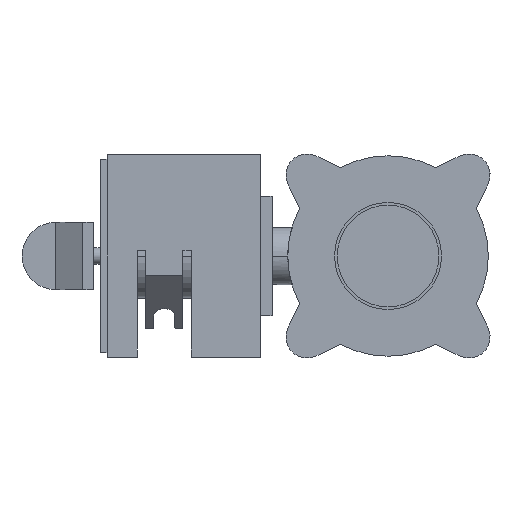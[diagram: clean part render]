
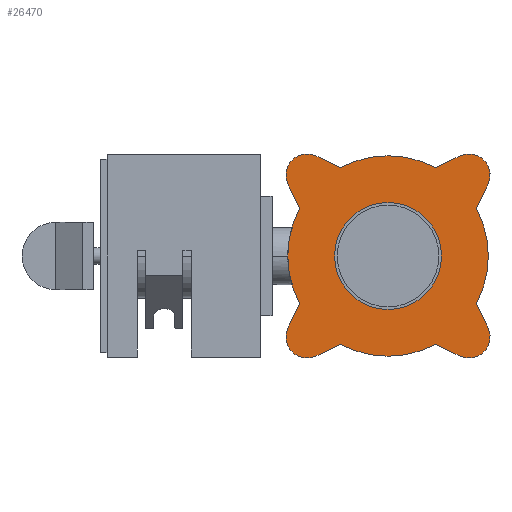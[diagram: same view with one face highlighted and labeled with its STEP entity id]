
A CAD part, left-side view. The second image highlights one B-rep face of the part: STEP entity #26470.
In plain terms, the highlighted planar face has unit normal (-1, 0, 0).
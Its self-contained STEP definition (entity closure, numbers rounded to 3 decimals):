
#18180=CARTESIAN_POINT('',(-64.5,-60.794,27.989));
#18190=VERTEX_POINT('',#18180);
#18220=CARTESIAN_POINT('',(-64.5,-113.3,0.));
#18230=DIRECTION('',(-1.,0.,0.));
#18240=DIRECTION('',(0.,-0.707,
0.707));
#18250=AXIS2_PLACEMENT_3D('',#18220,#18230,#18240);
#18260=CIRCLE('',#18250,59.5);
#18270=CARTESIAN_POINT('',(-64.5,-60.794,-27.989));
#18280=VERTEX_POINT('',#18270);
#18290=EDGE_CURVE('',#18190,#18280,#18260,.T.);
#22980=CARTESIAN_POINT('',(-64.5,-165.806,
-27.989));
#22990=VERTEX_POINT('',#22980);
#23020=CARTESIAN_POINT('',(-64.5,-113.3,0.));
#23030=DIRECTION('',(-1.,0.,0.));
#23040=DIRECTION('',(0.,-0.707,
0.707));
#23050=AXIS2_PLACEMENT_3D('',#23020,#23030,#23040);
#23060=CIRCLE('',#23050,59.5);
#23070=CARTESIAN_POINT('',(-64.5,-165.806,
27.989));
#23080=VERTEX_POINT('',#23070);
#23090=EDGE_CURVE('',#22990,#23080,#23060,.T.);
#23300=CARTESIAN_POINT('',(-64.5,-172.712,
-42.801));
#23310=VERTEX_POINT('',#23300);
#23340=CARTESIAN_POINT('',(-64.5,-152.754,0.));
#23350=DIRECTION('',(0.,0.423,
0.906));
#23360=VECTOR('',#23350,1.);
#23370=LINE('',#23340,#23360);
#23380=EDGE_CURVE('',#23310,#22990,#23370,.T.);
#23440=CARTESIAN_POINT('',(-64.5,-113.3,0.));
#23450=DIRECTION('',(-1.,0.,0.));
#23460=DIRECTION('',(0.,-0.707,
0.707));
#23470=AXIS2_PLACEMENT_3D('',#23440,#23450,#23460);
#23480=CIRCLE('',#23470,59.5);
#23490=CARTESIAN_POINT('',(-64.5,-85.311,-52.506));
#23500=VERTEX_POINT('',#23490);
#23510=CARTESIAN_POINT('',(-64.5,-141.289,
-52.506));
#23520=VERTEX_POINT('',#23510);
#23530=EDGE_CURVE('',#23500,#23520,#23480,.T.);
#23780=CARTESIAN_POINT('',(-64.5,-73.846,0.));
#23790=DIRECTION('',(0.,0.423,
-0.906));
#23800=VECTOR('',#23790,1.);
#23810=LINE('',#23780,#23800);
#23820=CARTESIAN_POINT('',(-64.5,-53.888,
-42.801));
#23830=VERTEX_POINT('',#23820);
#23840=EDGE_CURVE('',#18280,#23830,#23810,.T.);
#24020=CARTESIAN_POINT('',(-64.5,-65.217,-48.083));
#24030=DIRECTION('',(-1.,0.,0.));
#24040=DIRECTION('',(0.,-0.707,
0.707));
#24050=AXIS2_PLACEMENT_3D('',#24020,#24030,#24040);
#24060=CIRCLE('',#24050,12.5);
#24070=CARTESIAN_POINT('',(-64.5,-70.499,
-59.412));
#24080=VERTEX_POINT('',#24070);
#24090=EDGE_CURVE('',#23830,#24080,#24060,.T.);
#24270=CARTESIAN_POINT('',(-64.5,0.,-92.287));
#24280=DIRECTION('',(0.,-0.906,
0.423));
#24290=VECTOR('',#24280,1.);
#24300=LINE('',#24270,#24290);
#24310=EDGE_CURVE('',#24080,#23500,#24300,.T.);
#24440=CARTESIAN_POINT('',(-64.5,0.,13.379));
#24450=DIRECTION('',(0.,-0.906,
-0.423));
#24460=VECTOR('',#24450,1.);
#24470=LINE('',#24440,#24460);
#24480=CARTESIAN_POINT('',(-64.5,-156.101,-59.412));
#24490=VERTEX_POINT('',#24480);
#24500=EDGE_CURVE('',#23520,#24490,#24470,.T.);
#24680=CARTESIAN_POINT('',(-64.5,-161.383,
-48.083));
#24690=DIRECTION('',(-1.,0.,0.));
#24700=DIRECTION('',(0.,-0.707,
0.707));
#24710=AXIS2_PLACEMENT_3D('',#24680,#24690,#24700);
#24720=CIRCLE('',#24710,12.5);
#24730=EDGE_CURVE('',#24490,#23310,#24720,.T.);
#24890=CARTESIAN_POINT('',(-64.5,-53.888,42.801));
#24900=VERTEX_POINT('',#24890);
#24930=CARTESIAN_POINT('',(-64.5,-73.846,0.));
#24940=DIRECTION('',(0.,-0.423,
-0.906));
#24950=VECTOR('',#24940,1.);
#24960=LINE('',#24930,#24950);
#24970=EDGE_CURVE('',#24900,#18190,#24960,.T.);
#25070=CARTESIAN_POINT('',(-64.5,-141.289,52.506));
#25080=VERTEX_POINT('',#25070);
#25110=CARTESIAN_POINT('',(-64.5,-113.3,0.));
#25120=DIRECTION('',(-1.,0.,0.));
#25130=DIRECTION('',(0.,-0.707,
0.707));
#25140=AXIS2_PLACEMENT_3D('',#25110,#25120,#25130);
#25150=CIRCLE('',#25140,59.5);
#25160=CARTESIAN_POINT('',(-64.5,-85.311,52.506));
#25170=VERTEX_POINT('',#25160);
#25180=EDGE_CURVE('',#25080,#25170,#25150,.T.);
#25370=CARTESIAN_POINT('',(-64.5,0.,92.287));
#25380=DIRECTION('',(0.,0.906,
0.423));
#25390=VECTOR('',#25380,1.);
#25400=LINE('',#25370,#25390);
#25410=CARTESIAN_POINT('',(-64.5,-70.499,59.412));
#25420=VERTEX_POINT('',#25410);
#25430=EDGE_CURVE('',#25170,#25420,#25400,.T.);
#25610=CARTESIAN_POINT('',(-64.5,-65.217,48.083));
#25620=DIRECTION('',(-1.,0.,0.));
#25630=DIRECTION('',(0.,-0.707,
0.707));
#25640=AXIS2_PLACEMENT_3D('',#25610,#25620,#25630);
#25650=CIRCLE('',#25640,12.5);
#25660=EDGE_CURVE('',#25420,#24900,#25650,.T.);
#25820=CARTESIAN_POINT('',(-64.5,-156.101,
59.412));
#25830=VERTEX_POINT('',#25820);
#25860=CARTESIAN_POINT('',(-64.5,0.,-13.379));
#25870=DIRECTION('',(0.,0.906,
-0.423));
#25880=VECTOR('',#25870,1.);
#25890=LINE('',#25860,#25880);
#25900=EDGE_CURVE('',#25830,#25080,#25890,.T.);
#25960=CARTESIAN_POINT('',(-64.5,-113.3,0.));
#25970=DIRECTION('',(-1.,0.,0.));
#25980=DIRECTION('',(0.,-0.707,
0.707));
#25990=AXIS2_PLACEMENT_3D('',#25960,#25970,#25980);
#26000=PLANE('',#25990);
#26010=ORIENTED_EDGE('',*,*,#25180,.T.);
#26020=ORIENTED_EDGE('',*,*,#25900,.T.);
#26030=CARTESIAN_POINT('',(-64.5,-161.383,
48.083));
#26040=DIRECTION('',(-1.,0.,0.));
#26050=DIRECTION('',(0.,-0.707,
0.707));
#26060=AXIS2_PLACEMENT_3D('',#26030,#26040,#26050);
#26070=CIRCLE('',#26060,12.5);
#26080=CARTESIAN_POINT('',(-64.5,-172.712,
42.801));
#26090=VERTEX_POINT('',#26080);
#26100=EDGE_CURVE('',#26090,#25830,#26070,.T.);
#26110=ORIENTED_EDGE('',*,*,#26100,.T.);
#26120=CARTESIAN_POINT('',(-64.5,-152.754,0.));
#26130=DIRECTION('',(0.,0.423,
-0.906));
#26140=VECTOR('',#26130,1.);
#26150=LINE('',#26120,#26140);
#26160=EDGE_CURVE('',#26090,#23080,#26150,.T.);
#26170=ORIENTED_EDGE('',*,*,#26160,.F.);
#26180=ORIENTED_EDGE('',*,*,#23090,.T.);
#26190=ORIENTED_EDGE('',*,*,#23380,.T.);
#26200=ORIENTED_EDGE('',*,*,#24730,.T.);
#26210=ORIENTED_EDGE('',*,*,#24500,.T.);
#26220=ORIENTED_EDGE('',*,*,#23530,.T.);
#26230=ORIENTED_EDGE('',*,*,#24310,.T.);
#26240=ORIENTED_EDGE('',*,*,#24090,.T.);
#26250=ORIENTED_EDGE('',*,*,#23840,.T.);
#26260=ORIENTED_EDGE('',*,*,#18290,.T.);
#26270=ORIENTED_EDGE('',*,*,#24970,.T.);
#26280=ORIENTED_EDGE('',*,*,#25660,.T.);
#26290=ORIENTED_EDGE('',*,*,#25430,.T.);
#26300=EDGE_LOOP('',(#26290,#26280,#26270,#26260,#26250,#26240,#26230,
#26220,#26210,#26200,#26190,#26180,#26170,#26110,#26020,#26010));
#26310=FACE_OUTER_BOUND('',#26300,.T.);
#26320=CARTESIAN_POINT('',(-64.5,-113.3,0.));
#26330=DIRECTION('',(-1.,0.,0.));
#26340=DIRECTION('',(0.,0.,1.));
#26350=AXIS2_PLACEMENT_3D('',#26320,#26330,#26340);
#26360=CIRCLE('',#26350,31.75);
#26370=CARTESIAN_POINT('',(-64.5,-113.3,31.75));
#26380=VERTEX_POINT('',#26370);
#26390=CARTESIAN_POINT('',(-64.5,-113.3,-31.75));
#26400=VERTEX_POINT('',#26390);
#26410=EDGE_CURVE('',#26380,#26400,#26360,.T.);
#26420=ORIENTED_EDGE('',*,*,#26410,.F.);
#26430=EDGE_CURVE('',#26400,#26380,#26360,.T.);
#26440=ORIENTED_EDGE('',*,*,#26430,.F.);
#26450=EDGE_LOOP('',(#26440,#26420));
#26460=FACE_BOUND('',#26450,.T.);
#26470=ADVANCED_FACE('',(#26310,#26460),#26000,.T.);
